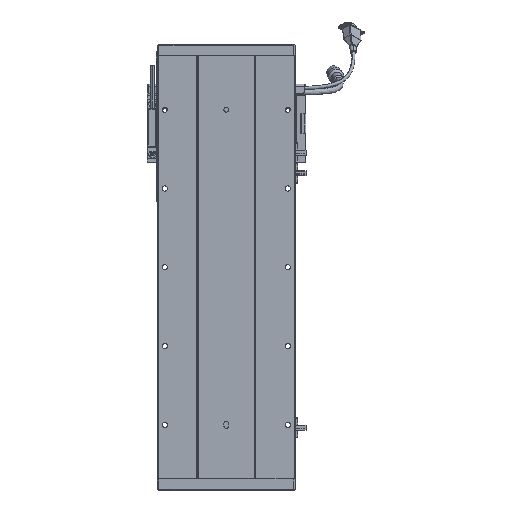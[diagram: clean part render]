
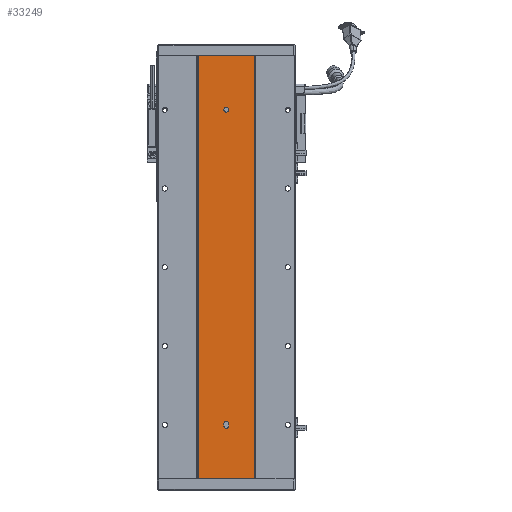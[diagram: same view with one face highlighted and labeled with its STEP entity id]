
A CAD part, front view. The second image highlights one B-rep face of the part: STEP entity #33249.
In plain terms, the highlighted planar face has unit normal (0, -1, 0).
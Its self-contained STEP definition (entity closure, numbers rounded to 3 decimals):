
#413 = CARTESIAN_POINT ( 'NONE',  ( 3280.529, 1415.701, 67. ) ) ;
#2397 = EDGE_CURVE ( 'NONE', #50985, #35073, #12088, .T. ) ;
#2517 = ORIENTED_EDGE ( 'NONE', *, *, #16221, .T. ) ;
#2805 = ORIENTED_EDGE ( 'NONE', *, *, #5452, .T. ) ;
#2886 = CARTESIAN_POINT ( 'NONE',  ( 3283.529, 1415.701, 67. ) ) ;
#5043 = VECTOR ( 'NONE', #13476, 1000. ) ;
#5066 = CARTESIAN_POINT ( 'NONE',  ( 3280.529, 1415.701, 468.5 ) ) ;
#5452 = EDGE_CURVE ( 'NONE', #18756, #49346, #7321, .T. ) ;
#7049 = CARTESIAN_POINT ( 'NONE',  ( 3244.748, 1415.701, 537. ) ) ;
#7084 = LINE ( 'NONE', #48623, #33444 ) ;
#7321 = LINE ( 'NONE', #71922, #45986 ) ;
#9414 = CARTESIAN_POINT ( 'NONE',  ( 3244.748, 1415.701, 537. ) ) ;
#9949 = DIRECTION ( 'NONE',  ( 1., 0., 0. ) ) ;
#10464 = ORIENTED_EDGE ( 'NONE', *, *, #16101, .F. ) ;
#12088 = CIRCLE ( 'NONE', #66955, 3. ) ;
#12475 = DIRECTION ( 'NONE',  ( 0., 0., -1. ) ) ;
#13304 = CIRCLE ( 'NONE', #30612, 3. ) ;
#13476 = DIRECTION ( 'NONE',  ( 1., 0., 0. ) ) ;
#13949 = AXIS2_PLACEMENT_3D ( 'NONE', #413, #50634, #56028 ) ;
#14441 = ORIENTED_EDGE ( 'NONE', *, *, #59212, .F. ) ;
#15233 = VECTOR ( 'NONE', #56397, 1000. ) ;
#15823 = PLANE ( 'NONE',  #24845 ) ;
#15941 = ORIENTED_EDGE ( 'NONE', *, *, #23659, .F. ) ;
#16052 = VECTOR ( 'NONE', #12475, 1000. ) ;
#16101 = EDGE_CURVE ( 'NONE', #70415, #32809, #30847, .T. ) ;
#16221 = EDGE_CURVE ( 'NONE', #49346, #49800, #7084, .T. ) ;
#18756 = VERTEX_POINT ( 'NONE', #54171 ) ;
#19661 = AXIS2_PLACEMENT_3D ( 'NONE', #31511, #69944, #36676 ) ;
#21751 = DIRECTION ( 'NONE',  ( 0., 0., -1. ) ) ;
#23578 = CARTESIAN_POINT ( 'NONE',  ( 3277.529, 1415.701, 70. ) ) ;
#23659 = EDGE_CURVE ( 'NONE', #32809, #50985, #56367, .T. ) ;
#24845 = AXIS2_PLACEMENT_3D ( 'NONE', #9414, #32223, #60322 ) ;
#25869 = CARTESIAN_POINT ( 'NONE',  ( 3244.748, 1415.701, 0. ) ) ;
#27197 = DIRECTION ( 'NONE',  ( 0., -1., 0. ) ) ;
#28050 = EDGE_CURVE ( 'NONE', #49054, #61851, #13304, .T. ) ;
#28096 = DIRECTION ( 'NONE',  ( 0., 0., -1. ) ) ;
#29946 = EDGE_CURVE ( 'NONE', #61851, #49054, #46325, .T. ) ;
#30141 = CARTESIAN_POINT ( 'NONE',  ( 3316.311, 1415.701, 537. ) ) ;
#30612 = AXIS2_PLACEMENT_3D ( 'NONE', #5066, #27197, #21751 ) ;
#30673 = CARTESIAN_POINT ( 'NONE',  ( 3283.529, 1415.701, 70. ) ) ;
#30847 = CIRCLE ( 'NONE', #19661, 3. ) ;
#31511 = CARTESIAN_POINT ( 'NONE',  ( 3280.529, 1415.701, 67. ) ) ;
#31682 = EDGE_CURVE ( 'NONE', #35073, #44703, #31855, .T. ) ;
#31855 = LINE ( 'NONE', #62645, #16052 ) ;
#31939 = ORIENTED_EDGE ( 'NONE', *, *, #29946, .F. ) ;
#32223 = DIRECTION ( 'NONE',  ( 0., 1., 0. ) ) ;
#32809 = VERTEX_POINT ( 'NONE', #2886 ) ;
#33249 = ADVANCED_FACE ( 'NONE', ( #70589, #65309, #53913 ), #15823, .F. ) ;
#33444 = VECTOR ( 'NONE', #9949, 1000. ) ;
#33496 = ORIENTED_EDGE ( 'NONE', *, *, #53856, .F. ) ;
#34871 = CARTESIAN_POINT ( 'NONE',  ( 3316.311, 1415.701, 0. ) ) ;
#35073 = VERTEX_POINT ( 'NONE', #23578 ) ;
#36433 = CARTESIAN_POINT ( 'NONE',  ( 3277.529, 1415.701, 67. ) ) ;
#36676 = DIRECTION ( 'NONE',  ( 0., 0., -1. ) ) ;
#39413 = DIRECTION ( 'NONE',  ( 0., -1., 0. ) ) ;
#39569 = CARTESIAN_POINT ( 'NONE',  ( 3283.529, 1415.701, 70. ) ) ;
#39643 = AXIS2_PLACEMENT_3D ( 'NONE', #72691, #39413, #44321 ) ;
#41238 = CARTESIAN_POINT ( 'NONE',  ( 3280.529, 1415.701, 465.5 ) ) ;
#43071 = DIRECTION ( 'NONE',  ( 0., 0., -1. ) ) ;
#43636 = ORIENTED_EDGE ( 'NONE', *, *, #59723, .F. ) ;
#43993 = CARTESIAN_POINT ( 'NONE',  ( 3316.311, 1415.701, 537. ) ) ;
#44321 = DIRECTION ( 'NONE',  ( 0., 0., -1. ) ) ;
#44514 = LINE ( 'NONE', #7049, #5043 ) ;
#44590 = CIRCLE ( 'NONE', #13949, 3. ) ;
#44703 = VERTEX_POINT ( 'NONE', #36433 ) ;
#45520 = VECTOR ( 'NONE', #54205, 1000. ) ;
#45536 = ORIENTED_EDGE ( 'NONE', *, *, #31682, .F. ) ;
#45986 = VECTOR ( 'NONE', #28096, 1000. ) ;
#46325 = CIRCLE ( 'NONE', #39643, 3. ) ;
#48623 = CARTESIAN_POINT ( 'NONE',  ( 3244.748, 1415.701, 0. ) ) ;
#48776 = ORIENTED_EDGE ( 'NONE', *, *, #2397, .F. ) ;
#49054 = VERTEX_POINT ( 'NONE', #55980 ) ;
#49346 = VERTEX_POINT ( 'NONE', #25869 ) ;
#49800 = VERTEX_POINT ( 'NONE', #34871 ) ;
#50634 = DIRECTION ( 'NONE',  ( 0., -1., 0. ) ) ;
#50905 = EDGE_LOOP ( 'NONE', ( #2517, #33496, #43636, #2805 ) ) ;
#50985 = VERTEX_POINT ( 'NONE', #30673 ) ;
#53856 = EDGE_CURVE ( 'NONE', #69570, #49800, #65656, .T. ) ;
#53913 = FACE_OUTER_BOUND ( 'NONE', #50905, .T. ) ;
#54171 = CARTESIAN_POINT ( 'NONE',  ( 3244.748, 1415.701, 537. ) ) ;
#54205 = DIRECTION ( 'NONE',  ( 0., 0., -1. ) ) ;
#55242 = DIRECTION ( 'NONE',  ( 0., -1., 0. ) ) ;
#55980 = CARTESIAN_POINT ( 'NONE',  ( 3280.529, 1415.701, 471.5 ) ) ;
#56028 = DIRECTION ( 'NONE',  ( 0., 0., -1. ) ) ;
#56367 = LINE ( 'NONE', #39569, #15233 ) ;
#56397 = DIRECTION ( 'NONE',  ( 0., 0., 1. ) ) ;
#59212 = EDGE_CURVE ( 'NONE', #44703, #70415, #44590, .T. ) ;
#59723 = EDGE_CURVE ( 'NONE', #18756, #69570, #44514, .T. ) ;
#60322 = DIRECTION ( 'NONE',  ( 0., 0., 1. ) ) ;
#60949 = EDGE_LOOP ( 'NONE', ( #14441, #45536, #48776, #15941, #10464 ) ) ;
#61851 = VERTEX_POINT ( 'NONE', #41238 ) ;
#62573 = CARTESIAN_POINT ( 'NONE',  ( 3280.529, 1415.701, 64. ) ) ;
#62645 = CARTESIAN_POINT ( 'NONE',  ( 3277.529, 1415.701, 70. ) ) ;
#65309 = FACE_BOUND ( 'NONE', #65505, .T. ) ;
#65505 = EDGE_LOOP ( 'NONE', ( #31939, #66956 ) ) ;
#65656 = LINE ( 'NONE', #43993, #45520 ) ;
#66955 = AXIS2_PLACEMENT_3D ( 'NONE', #71435, #55242, #43071 ) ;
#66956 = ORIENTED_EDGE ( 'NONE', *, *, #28050, .F. ) ;
#69570 = VERTEX_POINT ( 'NONE', #30141 ) ;
#69944 = DIRECTION ( 'NONE',  ( 0., -1., 0. ) ) ;
#70415 = VERTEX_POINT ( 'NONE', #62573 ) ;
#70589 = FACE_BOUND ( 'NONE', #60949, .T. ) ;
#71435 = CARTESIAN_POINT ( 'NONE',  ( 3280.529, 1415.701, 70. ) ) ;
#71922 = CARTESIAN_POINT ( 'NONE',  ( 3244.748, 1415.701, 537. ) ) ;
#72691 = CARTESIAN_POINT ( 'NONE',  ( 3280.529, 1415.701, 468.5 ) ) ;
